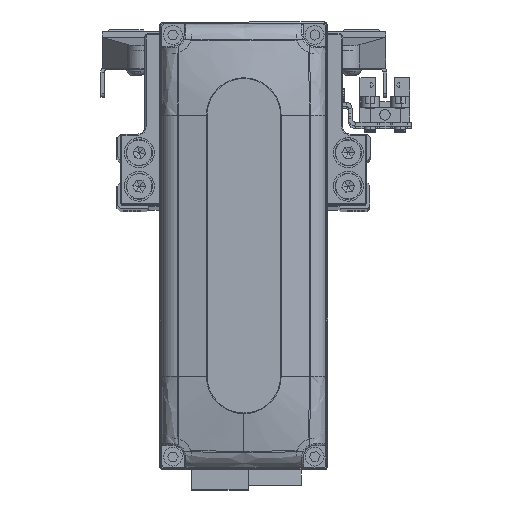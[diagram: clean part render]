
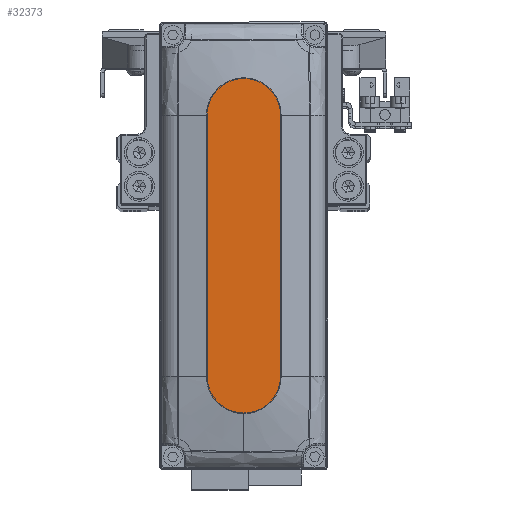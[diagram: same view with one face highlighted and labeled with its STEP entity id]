
A CAD part, top view. The second image highlights one B-rep face of the part: STEP entity #32373.
In plain terms, the highlighted planar face has unit normal (0, 0, 1).
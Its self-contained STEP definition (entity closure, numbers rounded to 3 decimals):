
#119 = EDGE_CURVE ( 'NONE', #27462, #24606, #17004, .T. ) ;
#1157 = DIRECTION ( 'NONE',  ( 0., 0., 1. ) ) ;
#2942 = AXIS2_PLACEMENT_3D ( 'NONE', #9618, #23331, #37046 ) ;
#3638 = AXIS2_PLACEMENT_3D ( 'NONE', #13265, #26966, #40681 ) ;
#4307 = VERTEX_POINT ( 'NONE', #11684 ) ;
#7026 = CARTESIAN_POINT ( 'NONE',  ( 35., -10., 28. ) ) ;
#8354 = VERTEX_POINT ( 'NONE', #25857 ) ;
#9618 = CARTESIAN_POINT ( 'NONE',  ( 0., 0., 28. ) ) ;
#9710 = CARTESIAN_POINT ( 'NONE',  ( -35., 10., 28. ) ) ;
#11316 = CARTESIAN_POINT ( 'NONE',  ( -35., 0., 28. ) ) ;
#11684 = CARTESIAN_POINT ( 'NONE',  ( 35., 10., 28. ) ) ;
#13251 = CIRCLE ( 'NONE', #38393, 10. ) ;
#13265 = CARTESIAN_POINT ( 'NONE',  ( 35., 0., 28. ) ) ;
#14871 = DIRECTION ( 'NONE',  ( 1., 0., 0. ) ) ;
#15835 = EDGE_CURVE ( 'NONE', #24606, #8354, #13251, .T. ) ;
#17004 = LINE ( 'NONE', #30715, #41165 ) ;
#17238 = AXIS2_PLACEMENT_3D ( 'NONE', #11316, #25013, #38733 ) ;
#18820 = ORIENTED_EDGE ( 'NONE', *, *, #119, .T. ) ;
#20116 = VECTOR ( 'NONE', #23419, 1000. ) ;
#21852 = ORIENTED_EDGE ( 'NONE', *, *, #15835, .T. ) ;
#21946 = ORIENTED_EDGE ( 'NONE', *, *, #29801, .T. ) ;
#22797 = CARTESIAN_POINT ( 'NONE',  ( -35., -10., 28. ) ) ;
#23013 = CIRCLE ( 'NONE', #3638, 10. ) ;
#23331 = DIRECTION ( 'NONE',  ( 0., 0., 1. ) ) ;
#23419 = DIRECTION ( 'NONE',  ( -1., 0., 0. ) ) ;
#24606 = VERTEX_POINT ( 'NONE', #7026 ) ;
#25013 = DIRECTION ( 'NONE',  ( 0., 0., 1. ) ) ;
#25857 = CARTESIAN_POINT ( 'NONE',  ( 45., 0., 28. ) ) ;
#26276 = ORIENTED_EDGE ( 'NONE', *, *, #30021, .T. ) ;
#26685 = FACE_OUTER_BOUND ( 'NONE', #26765, .T. ) ;
#26765 = EDGE_LOOP ( 'NONE', ( #26276, #21946, #18820, #21852, #43347 ) ) ;
#26966 = DIRECTION ( 'NONE',  ( 0., 0., 1. ) ) ;
#27462 = VERTEX_POINT ( 'NONE', #22797 ) ;
#29801 = EDGE_CURVE ( 'NONE', #31680, #27462, #36614, .T. ) ;
#30021 = EDGE_CURVE ( 'NONE', #4307, #31680, #40510, .T. ) ;
#30715 = CARTESIAN_POINT ( 'NONE',  ( -35., -10., 28. ) ) ;
#31680 = VERTEX_POINT ( 'NONE', #39565 ) ;
#31969 = CARTESIAN_POINT ( 'NONE',  ( 35., 0., 28. ) ) ;
#32373 = ADVANCED_FACE ( 'NONE', ( #26685 ), #40415, .T. ) ;
#36614 = CIRCLE ( 'NONE', #17238, 10. ) ;
#37046 = DIRECTION ( 'NONE',  ( 1., 0., 0. ) ) ;
#38393 = AXIS2_PLACEMENT_3D ( 'NONE', #31969, #1157, #14871 ) ;
#38733 = DIRECTION ( 'NONE',  ( 1., 0., 0. ) ) ;
#39156 = EDGE_CURVE ( 'NONE', #8354, #4307, #23013, .T. ) ;
#39565 = CARTESIAN_POINT ( 'NONE',  ( -35., 10., 28. ) ) ;
#40415 = PLANE ( 'NONE',  #2942 ) ;
#40510 = LINE ( 'NONE', #9710, #20116 ) ;
#40681 = DIRECTION ( 'NONE',  ( 1., 0., 0. ) ) ;
#41165 = VECTOR ( 'NONE', #44438, 1000. ) ;
#43347 = ORIENTED_EDGE ( 'NONE', *, *, #39156, .T. ) ;
#44438 = DIRECTION ( 'NONE',  ( 1., 0., 0. ) ) ;
